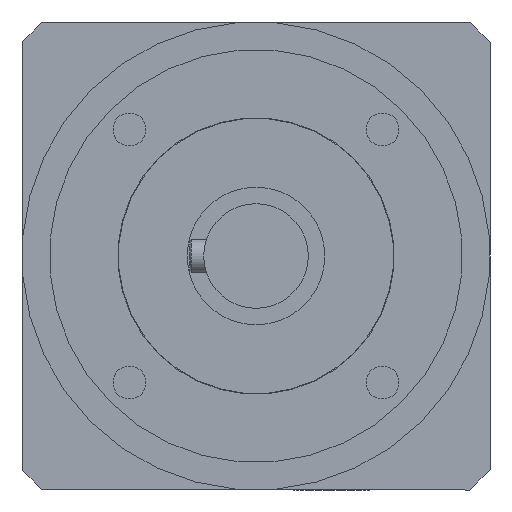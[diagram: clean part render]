
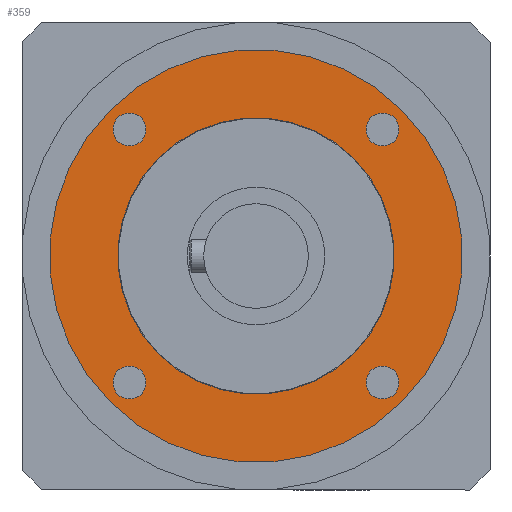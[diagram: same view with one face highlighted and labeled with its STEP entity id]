
A CAD part, left-side view. The second image highlights one B-rep face of the part: STEP entity #359.
In plain terms, the highlighted planar face has unit normal (-1, 0, 0).
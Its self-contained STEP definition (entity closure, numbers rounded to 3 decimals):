
#180=FACE_BOUND('',#615,.T.);
#181=FACE_BOUND('',#616,.T.);
#182=FACE_BOUND('',#617,.T.);
#183=FACE_BOUND('',#618,.T.);
#184=FACE_BOUND('',#619,.T.);
#185=FACE_BOUND('',#620,.T.);
#359=ADVANCED_FACE('',(#180,#181,#182,#183,#184,#185),#454,.T.);
#454=PLANE('',#1655);
#615=EDGE_LOOP('',(#979));
#616=EDGE_LOOP('',(#980));
#617=EDGE_LOOP('',(#981));
#618=EDGE_LOOP('',(#982));
#619=EDGE_LOOP('',(#983));
#620=EDGE_LOOP('',(#984));
#979=ORIENTED_EDGE('',*,*,#1373,.T.);
#980=ORIENTED_EDGE('',*,*,#1374,.T.);
#981=ORIENTED_EDGE('',*,*,#1375,.T.);
#982=ORIENTED_EDGE('',*,*,#1376,.T.);
#983=ORIENTED_EDGE('',*,*,#1372,.T.);
#984=ORIENTED_EDGE('',*,*,#1377,.T.);
#1229=VERTEX_POINT('',#2490);
#1230=VERTEX_POINT('',#2493);
#1231=VERTEX_POINT('',#2495);
#1232=VERTEX_POINT('',#2497);
#1233=VERTEX_POINT('',#2499);
#1234=VERTEX_POINT('',#2501);
#1372=EDGE_CURVE('',#1229,#1229,#1508,.T.);
#1373=EDGE_CURVE('',#1230,#1230,#1509,.T.);
#1374=EDGE_CURVE('',#1231,#1231,#1510,.T.);
#1375=EDGE_CURVE('',#1232,#1232,#1511,.T.);
#1376=EDGE_CURVE('',#1233,#1233,#1512,.T.);
#1377=EDGE_CURVE('',#1234,#1234,#1513,.T.);
#1508=CIRCLE('',#1648,37.5);
#1509=CIRCLE('',#1650,3.);
#1510=CIRCLE('',#1651,3.);
#1511=CIRCLE('',#1652,3.);
#1512=CIRCLE('',#1653,3.);
#1513=CIRCLE('',#1654,25.1);
#1648=AXIS2_PLACEMENT_3D('',#2489,#1973,#1974);
#1650=AXIS2_PLACEMENT_3D('',#2492,#1977,#1978);
#1651=AXIS2_PLACEMENT_3D('',#2494,#1979,#1980);
#1652=AXIS2_PLACEMENT_3D('',#2496,#1981,#1982);
#1653=AXIS2_PLACEMENT_3D('',#2498,#1983,#1984);
#1654=AXIS2_PLACEMENT_3D('',#2500,#1985,#1986);
#1655=AXIS2_PLACEMENT_3D('',#2502,#1987,#1988);
#1973=DIRECTION('',(-1.,0.,0.));
#1974=DIRECTION('',(0.,0.707,0.707));
#1977=DIRECTION('',(1.,0.,0.));
#1978=DIRECTION('',(0.,0.707,-0.707));
#1979=DIRECTION('',(1.,0.,0.));
#1980=DIRECTION('',(0.,0.707,0.707));
#1981=DIRECTION('',(1.,0.,0.));
#1982=DIRECTION('',(0.,-0.707,0.707));
#1983=DIRECTION('',(1.,0.,0.));
#1984=DIRECTION('',(0.,-0.707,-0.707));
#1985=DIRECTION('',(1.,0.,0.));
#1986=DIRECTION('',(0.,-0.707,-0.707));
#1987=DIRECTION('',(-1.,0.,0.));
#1988=DIRECTION('',(0.,0.707,0.707));
#2489=CARTESIAN_POINT('',(-132.5,0.,0.));
#2490=CARTESIAN_POINT('',(-132.5,26.517,26.517));
#2492=CARTESIAN_POINT('',(-132.5,-22.981,-22.981));
#2493=CARTESIAN_POINT('',(-132.5,-20.86,-25.102));
#2494=CARTESIAN_POINT('',(-132.5,22.981,-22.981));
#2495=CARTESIAN_POINT('',(-132.5,25.102,-20.86));
#2496=CARTESIAN_POINT('',(-132.5,22.981,22.981));
#2497=CARTESIAN_POINT('',(-132.5,20.86,25.102));
#2498=CARTESIAN_POINT('',(-132.5,-22.981,22.981));
#2499=CARTESIAN_POINT('',(-132.5,-25.102,20.86));
#2500=CARTESIAN_POINT('',(-132.5,0.,0.));
#2501=CARTESIAN_POINT('',(-132.5,-17.748,-17.748));
#2502=CARTESIAN_POINT('',(-132.5,0.,0.));
